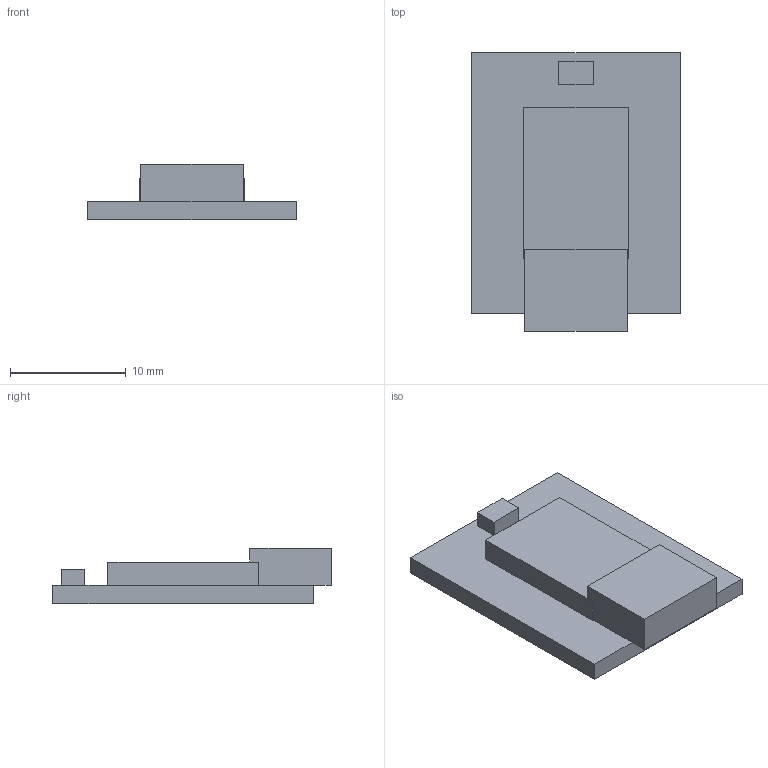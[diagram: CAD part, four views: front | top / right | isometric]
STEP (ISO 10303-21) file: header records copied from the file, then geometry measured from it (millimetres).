
FILE_DESCRIPTION(('Open CASCADE Model'),'2;1');
FILE_NAME('Open CASCADE Shape Model','2026-10-01T12:35:22',('Author'),( 'Open CASCADE'),'Open CASCADE STEP processor 7.8','Open CASCADE 7.8' ,'Unknown');
FILE_SCHEMA(('AUTOMOTIVE_DESIGN { 1 0 10303 214 1 1 1 1 }'));
Length unit declared in the file: millimetre
Products named in the file (2): E03_ESP32C3_SuperMini_A33; E03_ESP32C3_SuperMini_A33_solid
Assembly tree (1 placements, depth 2):
  E03_ESP32C3_SuperMini_A33
    E03_ESP32C3_SuperMini_A33_solid
Bounding box: 18 x 24 x 4.8 mm (x, y, z)
Volume: 1074.3 mm3; surface area: 1130.9 mm2
Topology: 1 solids, 1 shells, 23 faces, 58 edges, 38 vertices
Faces by surface type: plane 23
Entity records: 1457 total; most frequent: CARTESIAN_POINT 247, DIRECTION 214, LINE 164, VECTOR 164, ORIENTED_EDGE 116, PCURVE 116, DEFINITIONAL_REPRESENTATION 116, EDGE_CURVE 58
